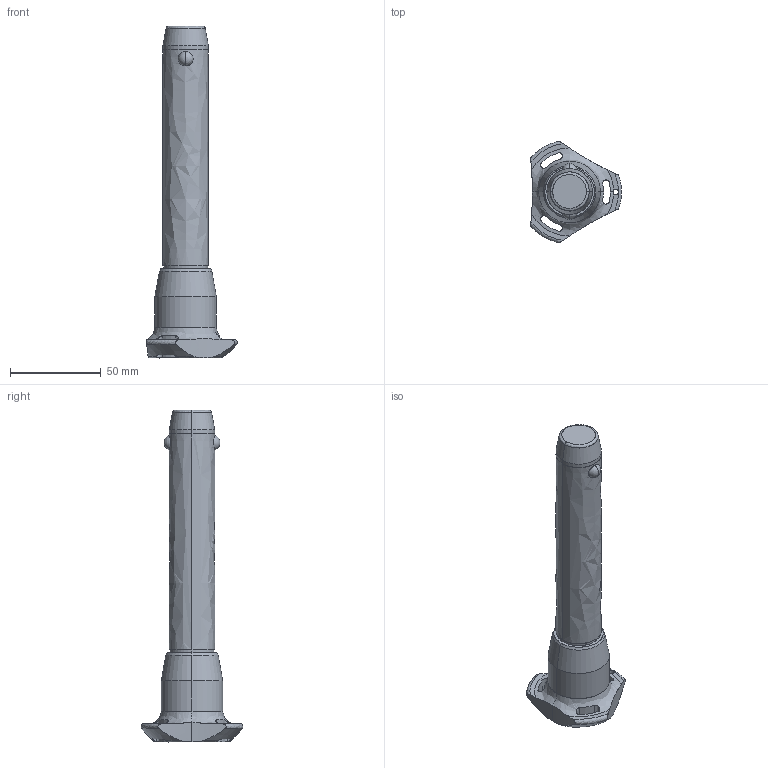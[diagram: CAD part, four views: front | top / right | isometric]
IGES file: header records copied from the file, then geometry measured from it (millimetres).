
Start section: SolidWorks IGES file using analytic representation for surfaces
Global section: file name: C:\Users\ianosborn\Desktop\QR1736_v2\QR1736_v2_20251115_IGES\QR1736.M25-110-T.igs; native system: SolidWorks 2019; preprocessor: SolidWorks 2019; author: IanOsborn; date: 251113.121712; units: millimetre
Bounding box: 50.03 x 56.02 x 182.7 mm (x, y, z)
Surface area: 20089.2 mm2 (no closed solid volume)
Topology: 0 solids, 0 shells, 68 faces, 1382 edges, 1378 vertices
Faces by surface type: revolution 52, bspline 16
